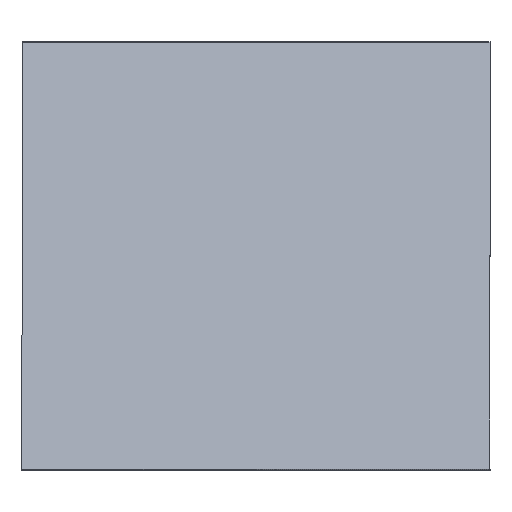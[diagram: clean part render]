
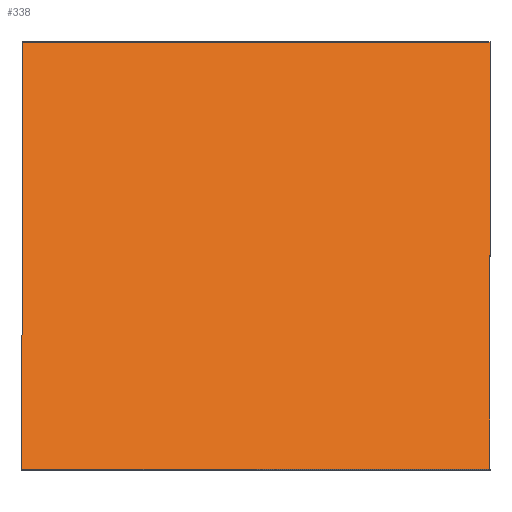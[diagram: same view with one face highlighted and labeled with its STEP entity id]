
A CAD part, left-side view. The second image highlights one B-rep face of the part: STEP entity #338.
In plain terms, the highlighted planar face has unit normal (-0.607, 0, 0.794).
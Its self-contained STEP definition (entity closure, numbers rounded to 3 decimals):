
#24 = VERTEX_POINT('',#25);
#25 = CARTESIAN_POINT('',(287.314,-138.913,
    28.43));
#32 = PLANE('',#33);
#33 = AXIS2_PLACEMENT_3D('',#34,#35,#36);
#34 = CARTESIAN_POINT('',(287.405,-138.913,
    28.311));
#35 = DIRECTION('',(0.,1.,-0.));
#36 = DIRECTION('',(0.795,0.,0.607));
#44 = PLANE('',#45);
#45 = AXIS2_PLACEMENT_3D('',#46,#47,#48);
#46 = CARTESIAN_POINT('',(287.405,-94.913,
    28.311));
#47 = DIRECTION('',(0.795,0.,0.607));
#48 = DIRECTION('',(0.,-1.,0.));
#56 = EDGE_CURVE('',#24,#57,#59,.T.);
#57 = VERTEX_POINT('',#58);
#58 = CARTESIAN_POINT('',(339.885,-138.913,
    68.608));
#59 = SURFACE_CURVE('',#60,(#64,#71),.PCURVE_S1.);
#60 = LINE('',#61,#62);
#61 = CARTESIAN_POINT('',(287.314,-138.913,
    28.43));
#62 = VECTOR('',#63,1.);
#63 = DIRECTION('',(0.795,0.,0.607));
#64 = PCURVE('',#32,#65);
#65 = DEFINITIONAL_REPRESENTATION('',(#66),#70);
#66 = LINE('',#67,#68);
#67 = CARTESIAN_POINT('',(0.,-0.15));
#68 = VECTOR('',#69,1.);
#69 = DIRECTION('',(1.,0.));
#70 = ( GEOMETRIC_REPRESENTATION_CONTEXT(2) 
PARAMETRIC_REPRESENTATION_CONTEXT() REPRESENTATION_CONTEXT('2D SPACE',''
  ) );
#71 = PCURVE('',#72,#77);
#72 = PLANE('',#73);
#73 = AXIS2_PLACEMENT_3D('',#74,#75,#76);
#74 = CARTESIAN_POINT('',(313.6,-116.913,
    48.519));
#75 = DIRECTION('',(-0.607,0.,0.795));
#76 = DIRECTION('',(0.795,0.,0.607));
#77 = DEFINITIONAL_REPRESENTATION('',(#78),#82);
#78 = LINE('',#79,#80);
#79 = CARTESIAN_POINT('',(-33.083,-22.));
#80 = VECTOR('',#81,1.);
#81 = DIRECTION('',(1.,0.));
#82 = ( GEOMETRIC_REPRESENTATION_CONTEXT(2) 
PARAMETRIC_REPRESENTATION_CONTEXT() REPRESENTATION_CONTEXT('2D SPACE',''
  ) );
#100 = PLANE('',#101);
#101 = AXIS2_PLACEMENT_3D('',#102,#103,#104);
#102 = CARTESIAN_POINT('',(339.976,-138.913,
    68.489));
#103 = DIRECTION('',(-0.795,0.,-0.607));
#104 = DIRECTION('',(0.,1.,0.));
#142 = EDGE_CURVE('',#57,#143,#145,.T.);
#143 = VERTEX_POINT('',#144);
#144 = CARTESIAN_POINT('',(339.885,-94.913,
    68.608));
#145 = SURFACE_CURVE('',#146,(#150,#157),.PCURVE_S1.);
#146 = LINE('',#147,#148);
#147 = CARTESIAN_POINT('',(339.885,-138.913,
    68.608));
#148 = VECTOR('',#149,1.);
#149 = DIRECTION('',(0.,1.,0.));
#150 = PCURVE('',#100,#151);
#151 = DEFINITIONAL_REPRESENTATION('',(#152),#156);
#152 = LINE('',#153,#154);
#153 = CARTESIAN_POINT('',(0.,-0.15));
#154 = VECTOR('',#155,1.);
#155 = DIRECTION('',(1.,0.));
#156 = ( GEOMETRIC_REPRESENTATION_CONTEXT(2) 
PARAMETRIC_REPRESENTATION_CONTEXT() REPRESENTATION_CONTEXT('2D SPACE',''
  ) );
#157 = PCURVE('',#72,#158);
#158 = DEFINITIONAL_REPRESENTATION('',(#159),#163);
#159 = LINE('',#160,#161);
#160 = CARTESIAN_POINT('',(33.083,-22.));
#161 = VECTOR('',#162,1.);
#162 = DIRECTION('',(0.,1.));
#163 = ( GEOMETRIC_REPRESENTATION_CONTEXT(2) 
PARAMETRIC_REPRESENTATION_CONTEXT() REPRESENTATION_CONTEXT('2D SPACE',''
  ) );
#181 = PLANE('',#182);
#182 = AXIS2_PLACEMENT_3D('',#183,#184,#185);
#183 = CARTESIAN_POINT('',(339.976,-94.913,
    68.489));
#184 = DIRECTION('',(-0.,-1.,0.));
#185 = DIRECTION('',(-0.795,0.,-0.607));
#218 = EDGE_CURVE('',#143,#219,#221,.T.);
#219 = VERTEX_POINT('',#220);
#220 = CARTESIAN_POINT('',(287.314,-94.913,
    28.43));
#221 = SURFACE_CURVE('',#222,(#226,#233),.PCURVE_S1.);
#222 = LINE('',#223,#224);
#223 = CARTESIAN_POINT('',(339.885,-94.913,
    68.608));
#224 = VECTOR('',#225,1.);
#225 = DIRECTION('',(-0.795,0.,-0.607));
#226 = PCURVE('',#181,#227);
#227 = DEFINITIONAL_REPRESENTATION('',(#228),#232);
#228 = LINE('',#229,#230);
#229 = CARTESIAN_POINT('',(0.,-0.15));
#230 = VECTOR('',#231,1.);
#231 = DIRECTION('',(1.,0.));
#232 = ( GEOMETRIC_REPRESENTATION_CONTEXT(2) 
PARAMETRIC_REPRESENTATION_CONTEXT() REPRESENTATION_CONTEXT('2D SPACE',''
  ) );
#233 = PCURVE('',#72,#234);
#234 = DEFINITIONAL_REPRESENTATION('',(#235),#239);
#235 = LINE('',#236,#237);
#236 = CARTESIAN_POINT('',(33.083,22.));
#237 = VECTOR('',#238,1.);
#238 = DIRECTION('',(-1.,0.));
#239 = ( GEOMETRIC_REPRESENTATION_CONTEXT(2) 
PARAMETRIC_REPRESENTATION_CONTEXT() REPRESENTATION_CONTEXT('2D SPACE',''
  ) );
#289 = EDGE_CURVE('',#219,#24,#290,.T.);
#290 = SURFACE_CURVE('',#291,(#295,#302),.PCURVE_S1.);
#291 = LINE('',#292,#293);
#292 = CARTESIAN_POINT('',(287.314,-94.913,
    28.43));
#293 = VECTOR('',#294,1.);
#294 = DIRECTION('',(0.,-1.,0.));
#295 = PCURVE('',#44,#296);
#296 = DEFINITIONAL_REPRESENTATION('',(#297),#301);
#297 = LINE('',#298,#299);
#298 = CARTESIAN_POINT('',(0.,-0.15));
#299 = VECTOR('',#300,1.);
#300 = DIRECTION('',(1.,0.));
#301 = ( GEOMETRIC_REPRESENTATION_CONTEXT(2) 
PARAMETRIC_REPRESENTATION_CONTEXT() REPRESENTATION_CONTEXT('2D SPACE',''
  ) );
#302 = PCURVE('',#72,#303);
#303 = DEFINITIONAL_REPRESENTATION('',(#304),#308);
#304 = LINE('',#305,#306);
#305 = CARTESIAN_POINT('',(-33.083,22.));
#306 = VECTOR('',#307,1.);
#307 = DIRECTION('',(0.,-1.));
#308 = ( GEOMETRIC_REPRESENTATION_CONTEXT(2) 
PARAMETRIC_REPRESENTATION_CONTEXT() REPRESENTATION_CONTEXT('2D SPACE',''
  ) );
#338 = ADVANCED_FACE('',(#339),#72,.T.);
#339 = FACE_BOUND('',#340,.T.);
#340 = EDGE_LOOP('',(#341,#342,#343,#344));
#341 = ORIENTED_EDGE('',*,*,#56,.T.);
#342 = ORIENTED_EDGE('',*,*,#142,.T.);
#343 = ORIENTED_EDGE('',*,*,#218,.T.);
#344 = ORIENTED_EDGE('',*,*,#289,.T.);
